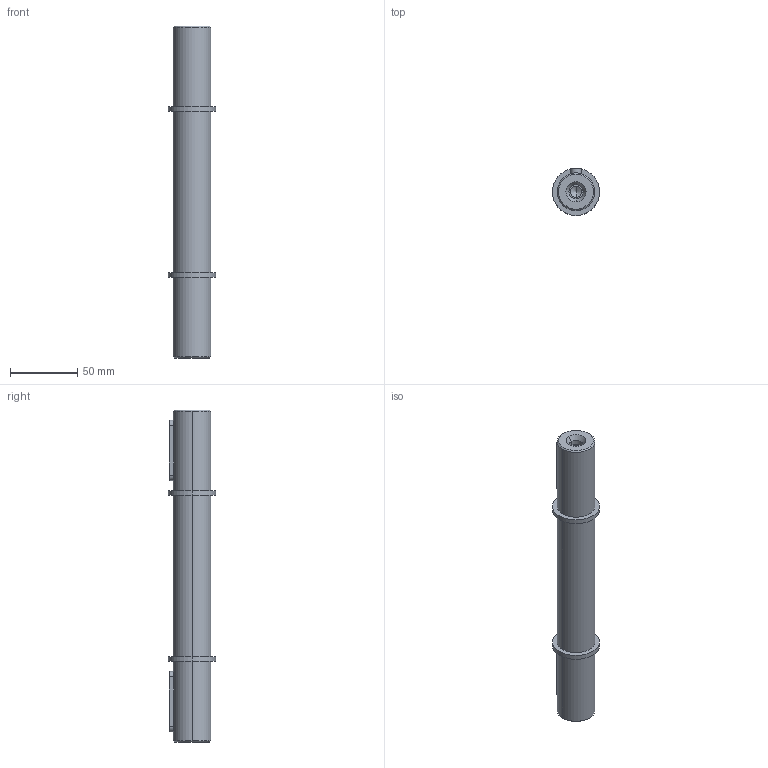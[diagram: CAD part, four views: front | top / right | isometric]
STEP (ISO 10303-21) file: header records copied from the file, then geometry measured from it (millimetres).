
FILE_DESCRIPTION(/* description */ (''),/* implementation_level */ '2;1');
FILE_NAME(/* name */ '3_ALBERO LENTO BISPORGENTE NMRV-P075',/* time_stamp */ '2025-10-09T15:12:34+02:00',/* author */ (''),/* organization */ (''),/* preprocessor_version */ 'ST-DEVELOPER v19.2',/* originating_system */ 'Rhino 8.23',/* authorisation */ '');
FILE_SCHEMA (('CONFIG_CONTROL_DESIGN'));
Length unit declared in the file: millimetre
Products named in the file (2): Document; AL 075-28(2-0)-p
Bounding box: 35 x 35 x 247 mm (x, y, z)
Volume: 152543.4 mm3; surface area: 26701.1 mm2
Topology: 1 solids, 1 shells, 48 faces, 103 edges, 63 vertices
Faces by surface type: cylinder 22, plane 14, bspline 12
Entity records: 1601 total; most frequent: CARTESIAN_POINT 490, ORIENTED_EDGE 198, DIRECTION 142, EDGE_CURVE 99, AXIS2_PLACEMENT_3D 89, VERTEX_POINT 63, EDGE_LOOP 58, B_SPLINE_CURVE_WITH_KNOTS 50
